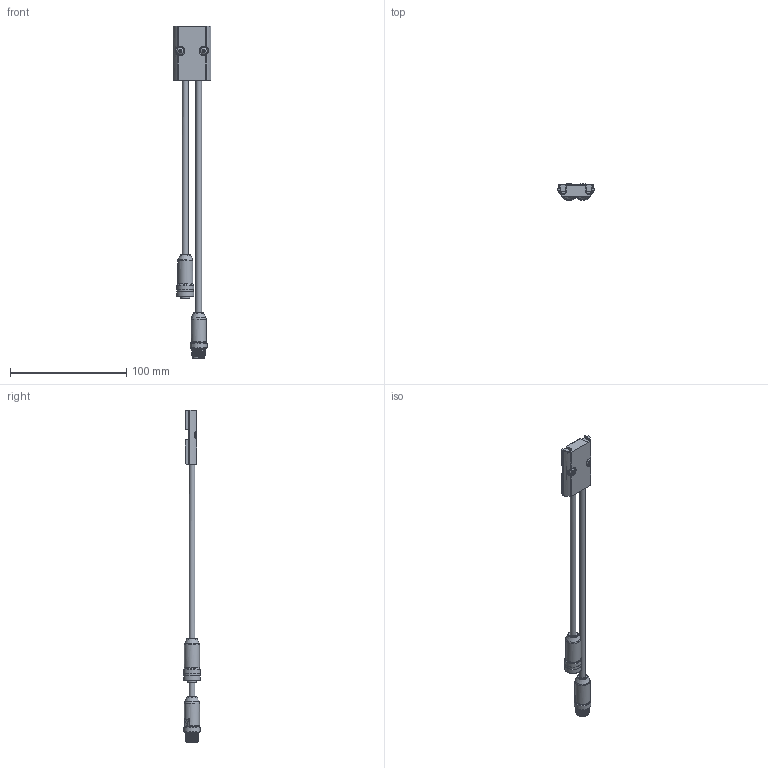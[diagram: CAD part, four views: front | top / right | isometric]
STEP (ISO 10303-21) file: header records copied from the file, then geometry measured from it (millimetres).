
FILE_DESCRIPTION(/* description */ (''),/* implementation_level */ '2;1');
FILE_NAME(/* name */ '5+5.stp',/* time_stamp */ '2022-12-01T16:48:51+01:00',/* author */ (''),/* organization */ (''),/* preprocessor_version */ 'ST-DEVELOPER v16.701',/* originating_system */ 'SIEMENS PLM Software NX 1946',/* authorisation */ '');
FILE_SCHEMA (('AP203_CONFIGURATION_CONTROLLED_3D_DESIGN_OF_MECHANICAL_PARTS_AND_ASSEMBLIES_MIM_LF { 1 0 10303 403 2 1 2}'));
Length unit declared in the file: millimetre
Products named in the file (1): MRos3D04D64D7egt
Bounding box: 32 x 14.5 x 285.2 mm (x, y, z)
Volume: 18477.2 mm3; surface area: 22123.3 mm2
Topology: 1 solids, 8 shells, 572 faces, 1576 edges, 1035 vertices
Faces by surface type: plane 270, cylinder 135, cone 70, bspline 50, sphere 24, torus 23
Full cylindrical faces by diameter (mm): 1.1 x5, 1.3 x5, 1.6 x5, 2.8 x3, 5 x4, 5.5 x2, 6 x1, 8.25 x1, 9.5 x1, 9.7 x1, 9.9 x1, 10 x1, 10.35 x1, 10.6 x3, 10.8 x1, 11 x1, 12.2 x1, 13 x2, 14 x1, 14.5 x3
Entity records: 23309 total; most frequent: CARTESIAN_POINT 9474, ORIENTED_EDGE 2876, DIRECTION 2749, EDGE_CURVE 1438, AXIS2_PLACEMENT_3D 1047, VERTEX_POINT 1003, EDGE_LOOP 687, LINE 655
